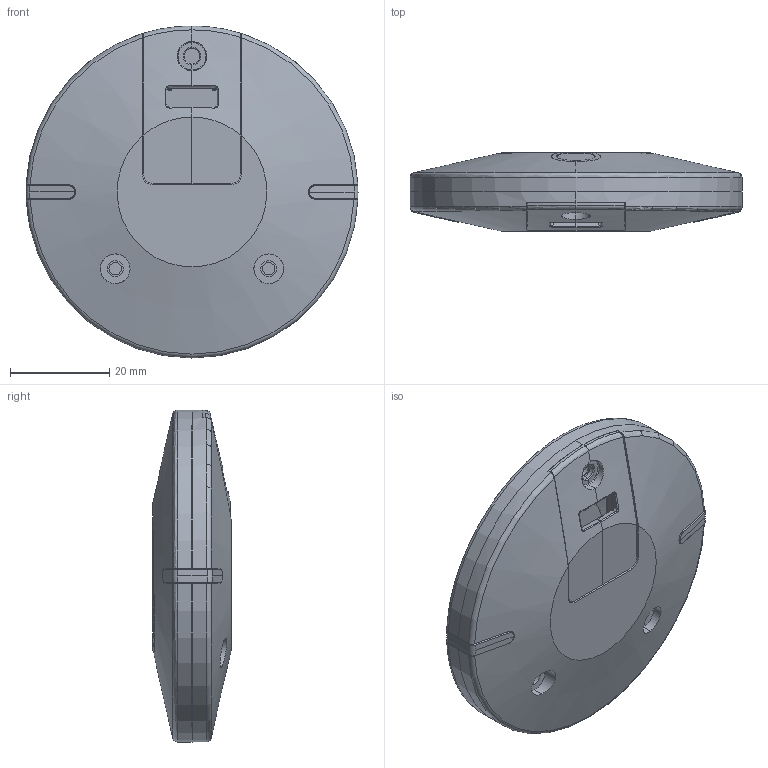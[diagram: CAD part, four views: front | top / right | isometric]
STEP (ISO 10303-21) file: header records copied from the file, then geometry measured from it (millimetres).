
FILE_DESCRIPTION (( 'STEP AP214' ), '1' );
FILE_NAME ('HERE+.STEP', '2020-07-14T01:59:36', ( 'User' ), ( 'User' ), 'SwSTEP 2.0', 'SolidWorks 2018', '' );
FILE_SCHEMA (( 'AUTOMOTIVE_DESIGN' ));
Length unit declared in the file: millimetre
Products named in the file (8): GPS_Button_A.step; GPS_Bottom; GPS_LEDShade.step; GPS_Button_B.step; GPS_Top_Here+_Logo.step; HERE+; GPS_Tail_B; GPS_Tail_A
Assembly tree (8 placements, depth 2):
  HERE+
    GPS_Tail_A
    GPS_Tail_B
    GPS_Bottom
    GPS_LEDShade.step  x2
    GPS_Top_Here+_Logo.step
    GPS_Button_A.step
    GPS_Button_B.step
Bounding box: 67 x 15.8 x 67 mm (x, y, z)
Volume: 13736 mm3; surface area: 23543.1 mm2
Topology: 8 solids, 8 shells, 1281 faces, 3225 edges, 1889 vertices
Faces by surface type: cylinder 425, bspline 310, plane 292, torus 123, sphere 78, cone 53
Entity records: 44698 total; most frequent: CARTESIAN_POINT 17817, ORIENTED_EDGE 5892, DIRECTION 5288, EDGE_CURVE 2946, AXIS2_PLACEMENT_3D 2091, VERTEX_POINT 1767, EDGE_LOOP 1227, FACE_OUTER_BOUND 1204
